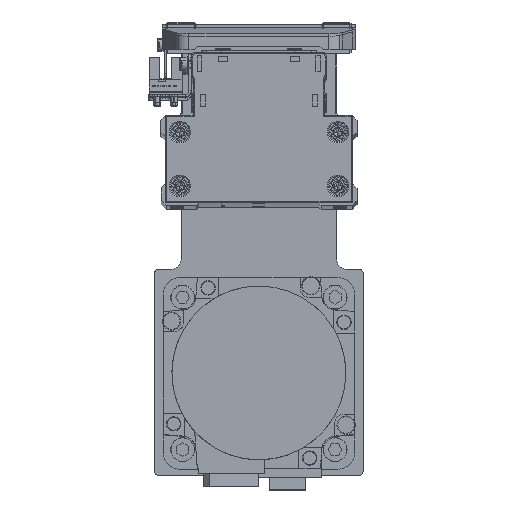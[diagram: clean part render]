
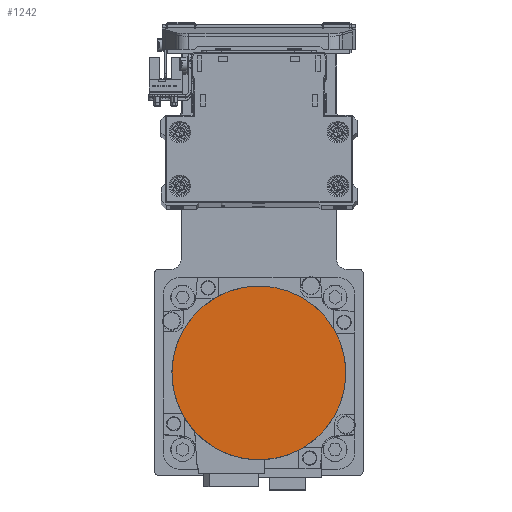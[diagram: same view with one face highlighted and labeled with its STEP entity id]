
A CAD part, top view. The second image highlights one B-rep face of the part: STEP entity #1242.
In plain terms, the highlighted planar face has unit normal (0, 0, 1) as drawn and (0, 0, -1) by its records, which use the part's own axes.
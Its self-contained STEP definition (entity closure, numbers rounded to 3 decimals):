
#1242 = ADVANCED_FACE ( 'NONE', ( #36404 ), #8709, .F. ) ;
#2661 = CIRCLE ( 'NONE', #25246, 36.3 ) ;
#5085 = CARTESIAN_POINT ( 'NONE',  ( 0., 0., -122.2 ) ) ;
#5689 = DIRECTION ( 'NONE',  ( 1., 0., 0. ) ) ;
#5985 = EDGE_LOOP ( 'NONE', ( #20088, #39657 ) ) ;
#6316 = DIRECTION ( 'NONE',  ( 0., 1., 0. ) ) ;
#6884 = VERTEX_POINT ( 'NONE', #19410 ) ;
#8709 = PLANE ( 'NONE',  #11066 ) ;
#11066 = AXIS2_PLACEMENT_3D ( 'NONE', #21034, #33389, #5689 ) ;
#17409 = DIRECTION ( 'NONE',  ( 0., 0., 1. ) ) ;
#19410 = CARTESIAN_POINT ( 'NONE',  ( 0., 36.3, -122.2 ) ) ;
#20088 = ORIENTED_EDGE ( 'NONE', *, *, #34273, .F. ) ;
#21034 = CARTESIAN_POINT ( 'NONE',  ( 0., 0., -122.2 ) ) ;
#21661 = CARTESIAN_POINT ( 'NONE',  ( 0., 0., -122.2 ) ) ;
#25246 = AXIS2_PLACEMENT_3D ( 'NONE', #5085, #17409, #29752 ) ;
#25274 = CARTESIAN_POINT ( 'NONE',  ( 0., -36.3, -122.2 ) ) ;
#25724 = EDGE_CURVE ( 'NONE', #36105, #6884, #2661, .T. ) ;
#28818 = CIRCLE ( 'NONE', #33977, 36.3 ) ;
#29752 = DIRECTION ( 'NONE',  ( 0., -1., 0. ) ) ;
#33389 = DIRECTION ( 'NONE',  ( 0., 0., 1. ) ) ;
#33977 = AXIS2_PLACEMENT_3D ( 'NONE', #21661, #34016, #6316 ) ;
#34016 = DIRECTION ( 'NONE',  ( 0., 0., 1. ) ) ;
#34273 = EDGE_CURVE ( 'NONE', #6884, #36105, #28818, .T. ) ;
#36105 = VERTEX_POINT ( 'NONE', #25274 ) ;
#36404 = FACE_OUTER_BOUND ( 'NONE', #5985, .T. ) ;
#39657 = ORIENTED_EDGE ( 'NONE', *, *, #25724, .F. ) ;
